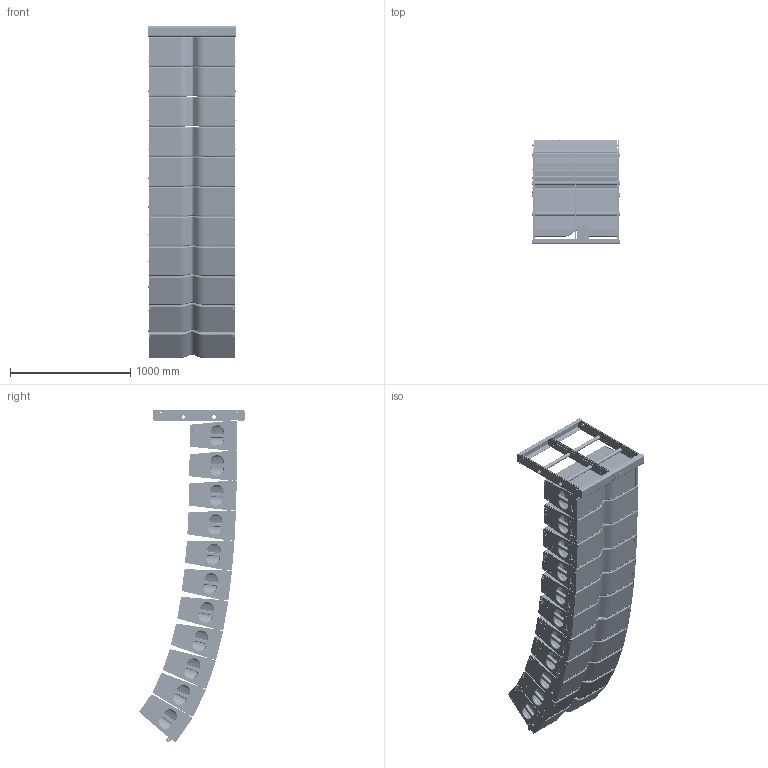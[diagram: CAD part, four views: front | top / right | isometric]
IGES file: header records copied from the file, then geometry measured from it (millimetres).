
Global section: file name: LA28 11 Box ARRAY v5; native system: unknown; preprocessor: unknown; author: unknown; organization: unknown; date: 20230121.234908; units: inch
Bounding box: 727.52 x 874.02 x 2756.38 mm (x, y, z)
Volume: 635692790.8 mm3; surface area: 15201586.7 mm2
Topology: 26 solids, 26 shells, 5217 faces, 13873 edges, 9320 vertices
Faces by surface type: bspline 5217
